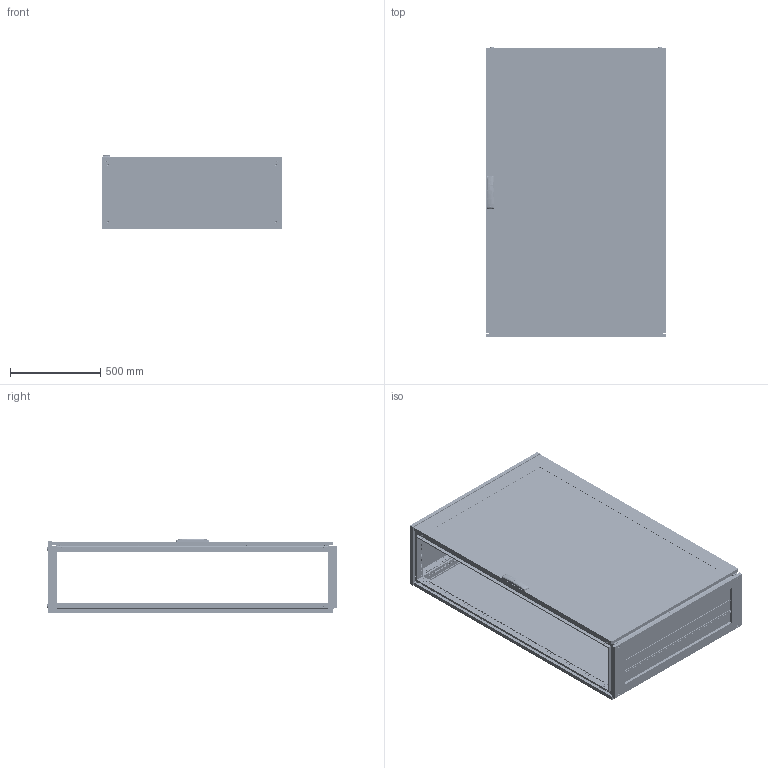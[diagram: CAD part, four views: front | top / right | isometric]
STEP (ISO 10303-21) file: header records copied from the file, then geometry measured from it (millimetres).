
FILE_DESCRIPTION (( 'STEP AP203' ), '1' );
FILE_NAME ('R5CQEN16104AX +.STEP', '2025-05-07T13:02:06', ( '' ), ( '' ), 'SwSTEP 2.0', 'SolidWorks 2022', '' );
FILE_SCHEMA (( 'CONFIG_CONTROL_DESIGN' ));
Length unit declared in the file: millimetre
Products named in the file (66): RB.2685.00.00.0 simple; M6x10 DIN 7500 E HX cl.5.8 Zinc_straight; RB.0562.01.01.0 simple_-11; 7 DIN 6799 Zinc; RB.0054.01.01.0 simple_-13; ATOS Traction guide ILY03.35; RB.2457.00.00.0 СБ simple_-24; RB.2755.00.00.0 СБ simple_-24; PF 7,5x15 CPE simple_1600x1000; М6х12 A5100231_straight; R5NCRE-Assem simple_R5NCRE16100; RB.2680.00.01.0 simple; M12x16 ISO 7380-1 HX cl.4,8 Zinc_straight; RB.2172.00.00.1 simple; RB.2528.00.00.0 simple_-03; RB.2686.00.00.0 simple; Glue CPTE simple_1600x1000; RB.2499.01.00.0 СБ simple_-23; RB.2969.00.00.0 СБ simple; RB.2499.00.00.0 СБ simple_-24; M6 MGR-MKO-0625 simple_Thread; RB.2357.00.00.0 simple_-07; RB.2052.01.00.0 СБ simple_-13; RB.0528.04.00.0 СБ simple; Square cap 20x20 simple; M6 DIN 985 cl.6,0 Zinc_straight; M6x10 DIN 912 HX cl.8,8 Zinc_straight; R5NKMN - Assem simple_R5NKMN16 (1000х400); M8x12 AC00C476 cl.8,8 Zinc_stright; AC00C446-R; RB.0562.01.00.0 СБ simple_-11; PF 7x14 CRE simple_1600x1000; 4.8x13 DIN 7981 PH Zinc_straight; RB.2702.00.00.0 simple; RB.2968.00.00.0 simple; 7 DIN 6799 Zinc simple; M8x12 AC00C476 cl.8,8 Zinc_thread; RB.1867.01.00.0 СБ simple_-58; 4,0x16 F Torx Zinc (ART 88200)_thread; M6x15 Erickson cl.4,8 Zinc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
Assembly tree (176 placements, depth 5):
  R5CQEN16104AX +
    R5NCPTE - Assem simple_R5NCPTE16100
      RB.0562.00.00.0 СБ simple_-11
        RB.0562.01.00.0 СБ simple_-11
          RB.0562.01.01.0 simple_-11
          М6х12 A5100231_straight  x9
          RB.2702.00.00.0 simple  x4
          PF 7,5x15 CPE simple_1600x1000
          Glass CPTE_1600x1000
          Glue CPTE simple_1600x1000
        Square cap 20x20 simple  x2
        M6x15 Erickson cl.4,8 Zinc  x3
        RB.0528.00.01.0 simple_-03  x2
        ATOS Traction guide ILY03.35  x4
        RB.2357.00.00.0 simple_-07
        RB.2680.00.00.0 СБ simple
          TPA.08.0139.00.01.0 simple
          RB.2680.00.01.0 simple
          RB.2680.00.02.0 simple  x2
        TPA.08.0139.00.03.0  x2
        M6 DIN 985 cl.6,0 Zinc_straight  x4
        4,0x16 F Torx Zinc (ART 88200)_thread  x2
        RB.0528.04.00.0 СБ simple  x2
          RB.0528.04.01.0 simple
          Pressing stud FH-M6-12_M6x12mm
      M6x10 DIN 912 HX cl.8,8 Zinc_straight  x8
      4.8x13 DIN 7981 PH Zinc_straight
      7 DIN 6799 Zinc simple  x4
      RB.2968.00.00.0 simple  x4
      RB.2969.00.00.0 СБ simple  x4
        RB.2969.00.01.0 simple
        Pin 4x16 DIN 7 AISI 303 (A1) simple
        M6 MGR-MKO-0625 simple_Thread
      AC00C446-R
      RB.2696.00.00.0 simple  x4
      7 DIN 6799 Zinc  x4
    R5NCRE-Assem simple_R5NCRE16100
      RB.2052.00.00.0 СБ simple_-13
        RB.2052.01.00.0 СБ simple_-13
          RB.0054.01.01.0 simple_-13
          М6х12 A5100231_straight  x4
        PF 7x14 CRE simple_1600x1000
      RB.2172.00.00.1 simple  x8
      M6x10 DIN 7500 E HX cl.5.8 Zinc_straight  x8
      M6x10 DIN 7500 M Torx cl.5.8 Zinc_straight  x8
    R5NKMN - Assem simple_R5NKMN16 (1000х400)
      RB.2528.00.00.0 simple_-03  x4
    R5NKTB - Assem simple_H=1600 R5NKTB104
      RB.2499.00.00.0 СБ simple_-24
        RB.2499.01.00.0 СБ simple_-23
          RB.1633.00.01.0 simple_-04  x2
          RB.1633.00.02.0 simple_default  x2
          PF 5x10 KTB simple_1000x400
        RB.2457.00.00.0 СБ simple_-24
          RB.2455.00.00.0 simple_-04  x2
          RB.2456.00.00.0 simple  x2
          TPA.08.0084.00.00.0 simple  x2
          TPA.08.0083.00.00.0 simple  x2
          M8x12 AC00C476 cl.8,8 Zinc_stright  x4
        RB.1728.00.00.0 simple_-03  x3
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Bounding box: 1000 x 1613.3 x 414.74 mm (x, y, z)
Volume: 16624405 mm3; surface area: 14564977.1 mm2
Topology: 179 solids, 195 shells, 21916 faces, 61904 edges, 40670 vertices
Faces by surface type: plane 11825, cylinder 8028, cone 1226, bspline 435, torus 368, sphere 34
Entity records: 218725 total; most frequent: CARTESIAN_POINT 54381, ORIENTED_EDGE 32504, DIRECTION 31084, EDGE_CURVE 16278, VERTEX_POINT 10763, AXIS2_PLACEMENT_3D 10493, VECTOR 10098, LINE 10098
